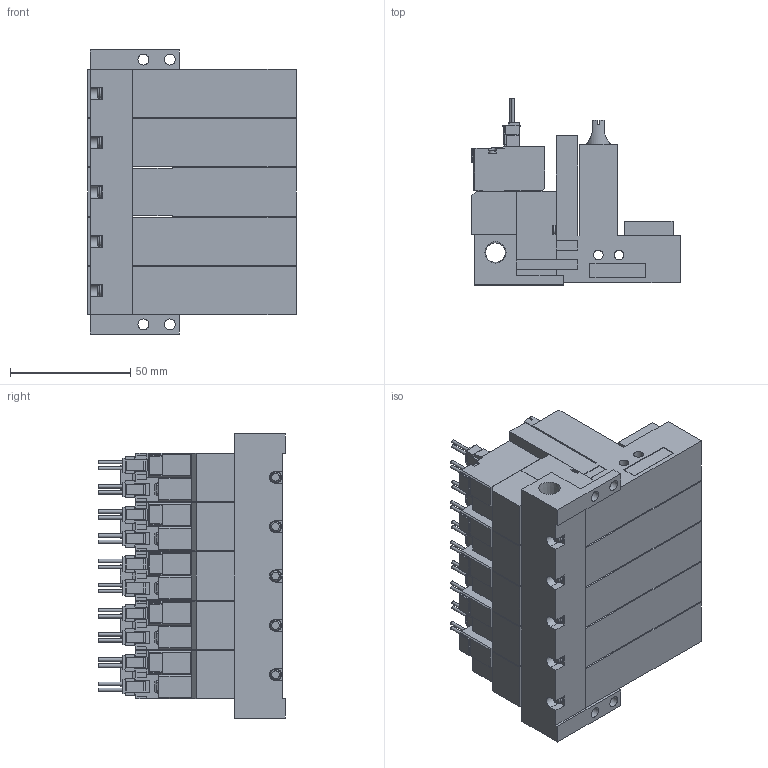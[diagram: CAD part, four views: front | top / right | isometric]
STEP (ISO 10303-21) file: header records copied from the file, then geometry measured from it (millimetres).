
FILE_DESCRIPTION(('STEP AP203'),'1');
FILE_NAME('ZL5ALR505.stp','2025-02-18T23:48:50',(' '),(' '),'Spatial InterOp 3D',' ',' ');
FILE_SCHEMA(('CONFIG_CONTROL_DESIGN'));
Length unit declared in the file: millimetre
Products named in the file (5): BMC22M※※※※ZL5ALR505; Solenoid valve A; Pressure sensor ZL; Unit L; Base MR50R
Assembly tree (16 placements, depth 2):
  BMC22M※※※※ZL5ALR505
    Solenoid valve A  x5
    Pressure sensor ZL  x5
    Unit L  x5
    Base MR50R
Bounding box: 86.6 x 77.45 x 118 mm (x, y, z)
Volume: 388676.9 mm3; surface area: 110435.9 mm2
Topology: 16 solids, 16 shells, 1751 faces, 4754 edges, 3130 vertices
Faces by surface type: plane 1504, cylinder 195, cone 37, torus 15
Full cylindrical faces by diameter (mm): 1.4 x20, 2.5 x5, 3 x20, 3.5 x20, 3.6 x5, 4 x10, 4.134 x5, 4.5 x4, 5.2 x5, 6 x5, 6.6 x5, 8.279 x1
Entity records: 13448 total; most frequent: CARTESIAN_POINT 2559, DIRECTION 2133, ORIENTED_EDGE 2110, EDGE_CURVE 1055, LINE 863, VECTOR 863, VERTEX_POINT 736, AXIS2_PLACEMENT_3D 635
